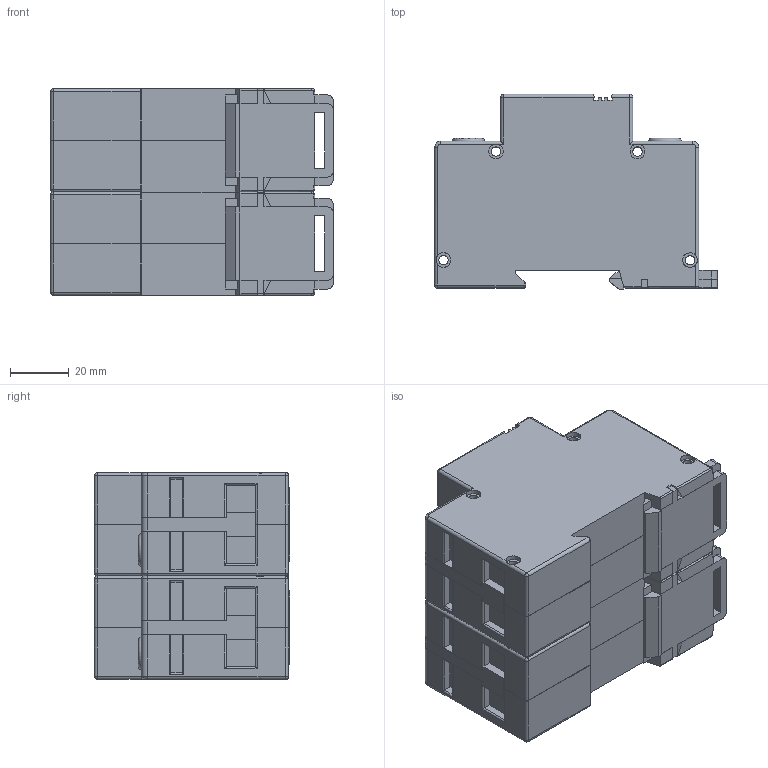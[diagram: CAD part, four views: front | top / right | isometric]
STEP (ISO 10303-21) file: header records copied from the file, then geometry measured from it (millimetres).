
FILE_DESCRIPTION(/* description */ (''),/* implementation_level */ '2;1');
FILE_NAME(/* name */ 'K:\PROJEKTY ROZPRACOVANÉ\MODELY DO KATALOGU\HS\3D - STEP\HLA50 2+0.stp',/* time_stamp */ '2020-03-24T16:11:53+01:00',/* author */ ('M Koliska'),/* organization */ (''),/* preprocessor_version */ 'ST-DEVELOPER v18',/* originating_system */ 'Autodesk Inventor 2020',/* authorisation */ '');
FILE_SCHEMA (('AUTOMOTIVE_DESIGN { 1 0 10303 214 3 1 1 }'));
Length unit declared in the file: millimetre
Products named in the file (3): HS50-50 2+0; HS 4.; DIN 7985 (H) - M6x10-H
Assembly tree (6 placements, depth 2):
  HS50-50 2+0
    HS 4.  x2
    DIN 7985 (H) - M6x10-H  x4
Bounding box: 96.3 x 66.5 x 70.4 mm (x, y, z)
Volume: 348848.4 mm3; surface area: 52610.7 mm2
Topology: 6 solids, 8 shells, 898 faces, 2458 edges, 1566 vertices
Faces by surface type: plane 596, cylinder 198, cone 64, sphere 16, bspline 16, torus 8
Full cylindrical faces by diameter (mm): 3.2 x8, 5 x16, 5.5 x4, 6 x4, 8 x4
Entity records: 13118 total; most frequent: CARTESIAN_POINT 2403, ORIENTED_EDGE 2244, DIRECTION 2189, EDGE_CURVE 1122, LINE 827, VECTOR 827, VERTEX_POINT 711, AXIS2_PLACEMENT_3D 681
